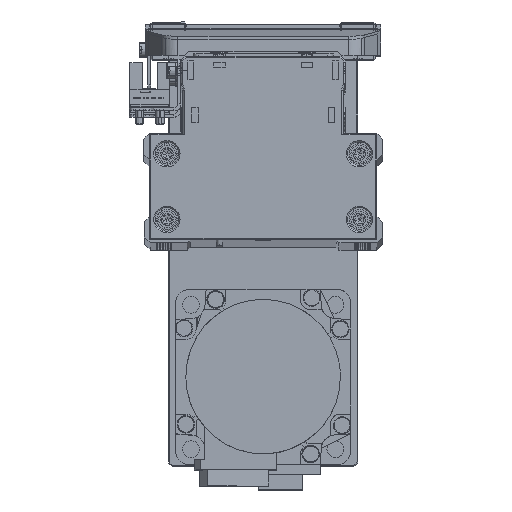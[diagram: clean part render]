
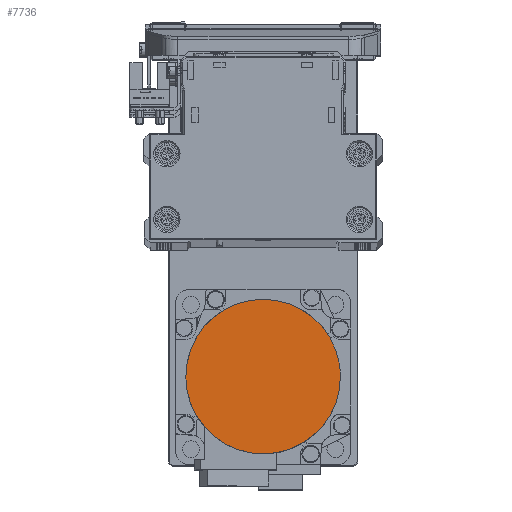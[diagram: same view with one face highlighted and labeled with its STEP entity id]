
A CAD part, top view. The second image highlights one B-rep face of the part: STEP entity #7736.
In plain terms, the highlighted planar face has unit normal (0, 0, 1) as drawn and (0, 0, -1) by its records, which use the part's own axes.
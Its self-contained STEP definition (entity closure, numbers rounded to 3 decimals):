
#153 = CARTESIAN_POINT ( 'NONE',  ( 13.28, -22.998, -88. ) ) ;
#366 = CARTESIAN_POINT ( 'NONE',  ( 13.28, 22.998, -88. ) ) ;
#594 = CARTESIAN_POINT ( 'NONE',  ( -17.512, 19.965, -88. ) ) ;
#1872 = ORIENTED_EDGE ( 'NONE', *, *, #20481, .F. ) ;
#3168 = CARTESIAN_POINT ( 'NONE',  ( -22.998, -13.28, -88. ) ) ;
#3385 = CARTESIAN_POINT ( 'NONE',  ( 6.871, -25.652, -88. ) ) ;
#3593 = CARTESIAN_POINT ( 'NONE',  ( 26.5, -1.734, -88. ) ) ;
#3598 = CARTESIAN_POINT ( 'NONE',  ( 19.965, 17.512, -88. ) ) ;
#3810 = CARTESIAN_POINT ( 'NONE',  ( -11.744, 23.819, -88. ) ) ;
#4021 = DIRECTION ( 'NONE',  ( 1., 0., 0. ) ) ;
#6397 = CARTESIAN_POINT ( 'NONE',  ( -25.652, -6.871, -88. ) ) ;
#6492 = VERTEX_POINT ( 'NONE', #16700 ) ;
#6608 = CARTESIAN_POINT ( 'NONE',  ( -1.734, -26.5, -88. ) ) ;
#6832 = CARTESIAN_POINT ( 'NONE',  ( 25.147, -8.539, -88. ) ) ;
#6841 = CARTESIAN_POINT ( 'NONE',  ( 23.819, 11.744, -88. ) ) ;
#7046 = CARTESIAN_POINT ( 'NONE',  ( -3.469, 26.329, -88. ) ) ;
#7247 = PLANE ( 'NONE',  #21449 ) ;
#7257 = CARTESIAN_POINT ( 'NONE',  ( -26.329, 3.469, -88. ) ) ;
#7736 = ADVANCED_FACE ( 'NONE', ( #36758 ), #7247, .F. ) ;
#9632 = CARTESIAN_POINT ( 'NONE',  ( -26.5, 0., -88. ) ) ;
#9831 = CARTESIAN_POINT ( 'NONE',  ( -8.539, -25.147, -88. ) ) ;
#10044 = CARTESIAN_POINT ( 'NONE',  ( 21.07, -16.165, -88. ) ) ;
#10051 = CARTESIAN_POINT ( 'NONE',  ( 26.329, 3.469, -88. ) ) ;
#10274 = CARTESIAN_POINT ( 'NONE',  ( 3.469, 26.329, -88. ) ) ;
#10482 = CARTESIAN_POINT ( 'NONE',  ( -23.819, 11.744, -88. ) ) ;
#13074 = CARTESIAN_POINT ( 'NONE',  ( -16.165, -21.07, -88. ) ) ;
#13273 = CARTESIAN_POINT ( 'NONE',  ( 16.165, -21.07, -88. ) ) ;
#13493 = CARTESIAN_POINT ( 'NONE',  ( 11.744, 23.819, -88. ) ) ;
#13708 = CARTESIAN_POINT ( 'NONE',  ( -19.965, 17.512, -88. ) ) ;
#14448 = VERTEX_POINT ( 'NONE', #14744 ) ;
#14744 = CARTESIAN_POINT ( 'NONE',  ( -26.5, 0., -88. ) ) ;
#16300 = CARTESIAN_POINT ( 'NONE',  ( -21.07, -16.165, -88. ) ) ;
#16511 = CARTESIAN_POINT ( 'NONE',  ( 8.539, -25.147, -88. ) ) ;
#16700 = CARTESIAN_POINT ( 'NONE',  ( 26.5, 0., -88. ) ) ;
#16713 = CARTESIAN_POINT ( 'NONE',  ( 26.5, 0., -88. ) ) ;
#16720 = CARTESIAN_POINT ( 'NONE',  ( 17.512, 19.965, -88. ) ) ;
#16935 = CARTESIAN_POINT ( 'NONE',  ( -13.28, 22.998, -88. ) ) ;
#19518 = CARTESIAN_POINT ( 'NONE',  ( -25.147, -8.539, -88. ) ) ;
#19740 = CARTESIAN_POINT ( 'NONE',  ( 1.734, -26.5, -88. ) ) ;
#19952 = CARTESIAN_POINT ( 'NONE',  ( 25.652, -6.871, -88. ) ) ;
#19959 = CARTESIAN_POINT ( 'NONE',  ( 22.998, 13.28, -88. ) ) ;
#20165 = CARTESIAN_POINT ( 'NONE',  ( -6.871, 25.652, -88. ) ) ;
#20365 = CARTESIAN_POINT ( 'NONE',  ( 0., 0., -88. ) ) ;
#20382 = CARTESIAN_POINT ( 'NONE',  ( -26.5, 1.734, -88. ) ) ;
#20481 = EDGE_CURVE ( 'NONE', #14448, #6492, #38381, .T. ) ;
#20517 = EDGE_LOOP ( 'NONE', ( #34158, #1872 ) ) ;
#20805 = B_SPLINE_CURVE_WITH_KNOTS ( 'NONE', 3,
 ( #26426, #39572, #10051, #23201, #36354, #6841, #19959, #33105, #3598, #16720, #29860, #366, #13493, #26639, #39786, #10274, #23418, #36563, #7046, #20165, #33314, #3810, #16935, #30079, #594, #13708, #26851, #39996, #10482, #23624, #36773, #7257, #20382, #33531 ),
 .UNSPECIFIED., .F., .F.,
 ( 4, 2, 2, 2, 2, 2, 2, 2, 2, 2, 2, 2, 2, 2, 2, 2, 4 ),
 ( 0., 0.063, 0.125, 0.188, 0.25, 0.313, 0.375, 0.438, 0.5, 0.563, 0.625, 0.688, 0.75, 0.813, 0.875, 0.938, 1. ),
 .UNSPECIFIED. ) ;
#21449 = AXIS2_PLACEMENT_3D ( 'NONE', #20365, #33516, #4021 ) ;
#21606 = EDGE_CURVE ( 'NONE', #6492, #14448, #20805, .T. ) ;
#22772 = CARTESIAN_POINT ( 'NONE',  ( -26.5, -1.734, -88. ) ) ;
#22974 = CARTESIAN_POINT ( 'NONE',  ( -6.871, -25.652, -88. ) ) ;
#23192 = CARTESIAN_POINT ( 'NONE',  ( 22.998, -13.28, -88. ) ) ;
#23201 = CARTESIAN_POINT ( 'NONE',  ( 25.652, 6.871, -88. ) ) ;
#23418 = CARTESIAN_POINT ( 'NONE',  ( 1.734, 26.5, -88. ) ) ;
#23624 = CARTESIAN_POINT ( 'NONE',  ( -25.147, 8.539, -88. ) ) ;
#26212 = CARTESIAN_POINT ( 'NONE',  ( -13.28, -22.998, -88. ) ) ;
#26417 = CARTESIAN_POINT ( 'NONE',  ( 17.512, -19.965, -88. ) ) ;
#26426 = CARTESIAN_POINT ( 'NONE',  ( 26.5, 0., -88. ) ) ;
#26639 = CARTESIAN_POINT ( 'NONE',  ( 8.539, 25.147, -88. ) ) ;
#26851 = CARTESIAN_POINT ( 'NONE',  ( -21.07, 16.165, -88. ) ) ;
#29440 = CARTESIAN_POINT ( 'NONE',  ( -19.965, -17.512, -88. ) ) ;
#29649 = CARTESIAN_POINT ( 'NONE',  ( 11.744, -23.819, -88. ) ) ;
#29860 = CARTESIAN_POINT ( 'NONE',  ( 16.165, 21.07, -88. ) ) ;
#30079 = CARTESIAN_POINT ( 'NONE',  ( -16.165, 21.07, -88. ) ) ;
#32669 = CARTESIAN_POINT ( 'NONE',  ( -23.819, -11.744, -88. ) ) ;
#32890 = CARTESIAN_POINT ( 'NONE',  ( 3.469, -26.329, -88. ) ) ;
#33099 = CARTESIAN_POINT ( 'NONE',  ( 26.329, -3.469, -88. ) ) ;
#33105 = CARTESIAN_POINT ( 'NONE',  ( 21.07, 16.165, -88. ) ) ;
#33314 = CARTESIAN_POINT ( 'NONE',  ( -8.539, 25.147, -88. ) ) ;
#33516 = DIRECTION ( 'NONE',  ( 0., 0., 1. ) ) ;
#33531 = CARTESIAN_POINT ( 'NONE',  ( -26.5, 0., -88. ) ) ;
#34133 = CARTESIAN_POINT ( 'NONE',  ( -17.512, -19.965, -88. ) ) ;
#34158 = ORIENTED_EDGE ( 'NONE', *, *, #21606, .F. ) ;
#35922 = CARTESIAN_POINT ( 'NONE',  ( -26.329, -3.469, -88. ) ) ;
#36125 = CARTESIAN_POINT ( 'NONE',  ( -3.469, -26.329, -88. ) ) ;
#36349 = CARTESIAN_POINT ( 'NONE',  ( 23.819, -11.744, -88. ) ) ;
#36354 = CARTESIAN_POINT ( 'NONE',  ( 25.147, 8.539, -88. ) ) ;
#36563 = CARTESIAN_POINT ( 'NONE',  ( -1.734, 26.5, -88. ) ) ;
#36758 = FACE_OUTER_BOUND ( 'NONE', #20517, .T. ) ;
#36773 = CARTESIAN_POINT ( 'NONE',  ( -25.652, 6.871, -88. ) ) ;
#38381 = B_SPLINE_CURVE_WITH_KNOTS ( 'NONE', 3,
 ( #9632, #22772, #35922, #6397, #19518, #32669, #3168, #16300, #29440, #34133, #13074, #26212, #39360, #9831, #22974, #36125, #6608, #19740, #32890, #3385, #16511, #29649, #153, #13273, #26417, #39566, #10044, #23192, #36349, #6832, #19952, #33099, #3593, #16713 ),
 .UNSPECIFIED., .F., .F.,
 ( 4, 2, 2, 2, 2, 2, 2, 2, 2, 2, 2, 2, 2, 2, 2, 2, 4 ),
 ( 0., 0.063, 0.125, 0.188, 0.25, 0.313, 0.375, 0.438, 0.5, 0.563, 0.625, 0.688, 0.75, 0.813, 0.875, 0.938, 1. ),
 .UNSPECIFIED. ) ;
#39360 = CARTESIAN_POINT ( 'NONE',  ( -11.744, -23.819, -88. ) ) ;
#39566 = CARTESIAN_POINT ( 'NONE',  ( 19.965, -17.512, -88. ) ) ;
#39572 = CARTESIAN_POINT ( 'NONE',  ( 26.5, 1.734, -88. ) ) ;
#39786 = CARTESIAN_POINT ( 'NONE',  ( 6.871, 25.652, -88. ) ) ;
#39996 = CARTESIAN_POINT ( 'NONE',  ( -22.998, 13.28, -88. ) ) ;
